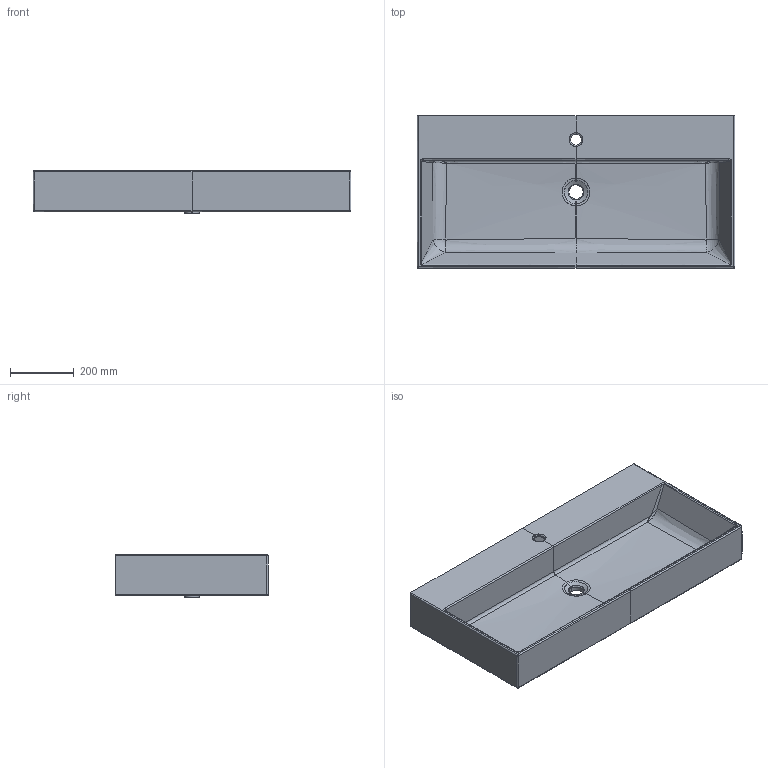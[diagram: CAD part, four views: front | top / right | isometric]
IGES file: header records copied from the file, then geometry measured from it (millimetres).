
Start section: START RECORD GO HERE.
Global section: file name: 6100_100x48.igs; native system: DASSAULT SYSTEMES CATIA V5 R19 - www.3ds.com; preprocessor: CATIA Version 5 Release 19 SP 5 ; author: gioge; organization: LAPTOP-G94B6G74; date: 20200630.123615; units: millimetre
Bounding box: 1000 x 480 x 135 mm (x, y, z)
Surface area: 1099645.9 mm2 (no closed solid volume)
Topology: 0 solids, 0 shells, 74 faces, 324 edges, 320 vertices
Faces by surface type: bspline 64, plane 10
